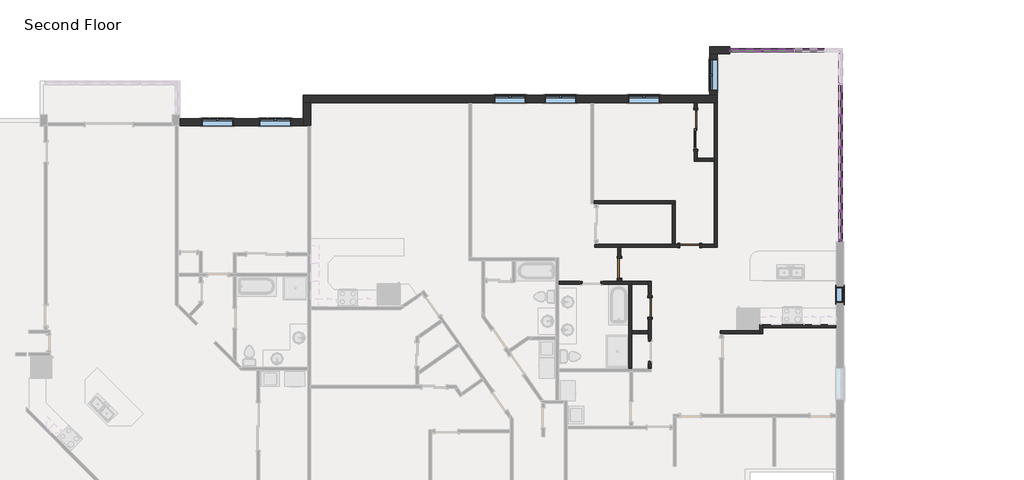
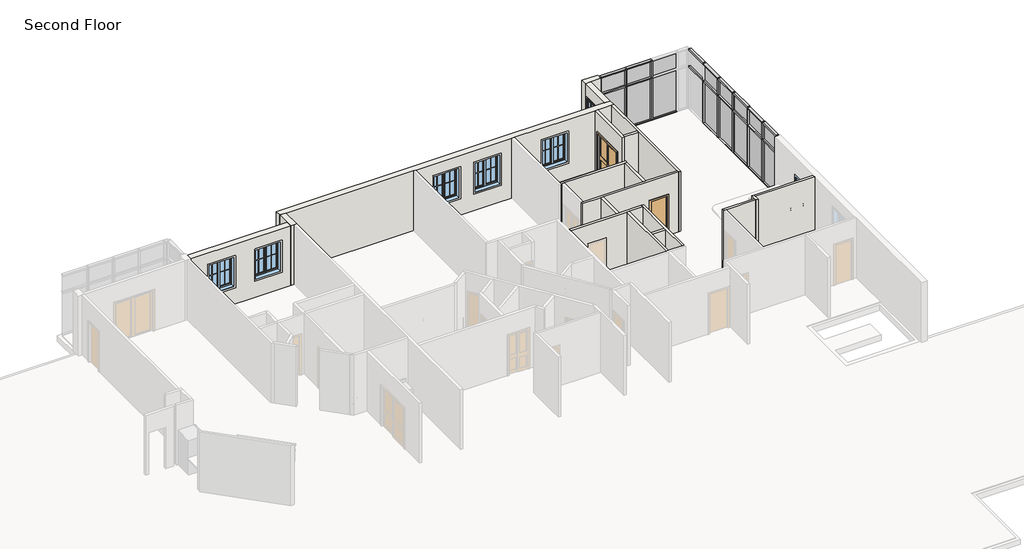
# One storey, part 12 of 17: 41 members, 19 walls, 16 plates, 7 windows, 4 doors.
"""IFC4 building model written with IfcOpenShell, lengths in millimetres."""

from ifc_helpers import new_model, si_unit, frame, origin, place, context, project, spatial, polyline, outline, extrude, faceted_brep, transform, mapped, element, save
from components import door_f2b275c1, door_2e7ec8be, rectangular_mullion_rectangular_mullion_1_fa3625a1, rectangular_mullion_rectangular_mullion_1_a50b3cda, rectangular_mullion_rectangular_mullion_1_5cd4c5ac, rectangular_mullion_rectangular_mullion_1_7cbf0b94, rectangular_mullion_rectangular_mullion_1_6186cc23, rectangular_mullion_rectangular_mullion_1_049a2e78, rectangular_mullion_rectangular_mullion_1_fcad50a8, rectangular_mullion_rectangular_mullion_1_aa096312, system_panel_glazed_53e6f9fb, system_panel_glazed_cb820e14, system_panel_glazed_f20beefc, system_panel_glazed_097fd36c, window_b85827b5, window_33528cc2

model = new_model("IFC4")

# Units and contexts
model_context = context("Model", 3, world=origin())
ifc_project = project(units=[si_unit("LENGTHUNIT", "METRE", prefix="MILLI")], contexts=[model_context])

# Site, building, storey
site = spatial("IfcSite", under=ifc_project)
building = spatial("IfcBuilding", under=site)
storey = spatial("IfcBuildingStorey", under=building, Name="Second Floor", Elevation=3048.0)

# Doors
placement = place(None, origin())
door_shape = door_f2b275c1(model_context)
element("IfcDoor", 1, ObjectType="Single-Flush : 30\" x 80\"", at=placement, inside=storey, context=model_context, shape_type="MappedRepresentation", body=[
    mapped(door_shape, transform((49850.4788879, 9096.855328, 3048.0), x_axis=(0.0, 1.0, 0.0), y_axis=(-1.0, 0.0, 0.0), z_axis=(0.0, 0.0, 1.0))),
])
element("IfcDoor", 2, ObjectType="Single-Flush : 30\" x 80\"", at=placement, inside=storey, context=model_context, shape_type="MappedRepresentation", body=[
    mapped(door_shape, transform((51382.3746633, 11479.9245559, 3048.0), x_axis=(-1.0, 0.0, 0.0), y_axis=(0.0, -1.0, 0.0), z_axis=(0.0, 0.0, 1.0))),
])
element("IfcDoor", 3, ObjectType="Single-Flush : 30\" x 80\"", at=placement, inside=storey, context=model_context, shape_type="MappedRepresentation", body=[
    mapped(door_shape, transform((48681.6260153, 10610.1456327, 3048.0), x_axis=(0.0, -1.0, 0.0), y_axis=(1.0, 0.0, 0.0), z_axis=(0.0, 0.0, 1.0))),
])
door_2_shape = door_2e7ec8be(model_context)
element("IfcDoor", 4, ObjectType="Sliding-Closet : 60\" x 80\"", at=placement, inside=storey, context=model_context, shape_type="MappedRepresentation", body=[
    mapped(door_2_shape, transform((51741.9440158, 15942.0032713, 3048.0), x_axis=(0.0, 1.0, 0.0), y_axis=(-1.0, 0.0, 0.0), z_axis=(0.0, 0.0, 1.0))),
])

# Members
rectangular_mullion_rectangular_mullion_1_shape = rectangular_mullion_rectangular_mullion_1_fa3625a1(model_context)
element("IfcMember", 5, ObjectType="Rectangular Mullion : Rectangular Mullion 1", at=placement, inside=storey, context=model_context, shape_type="MappedRepresentation", body=[
    mapped(rectangular_mullion_rectangular_mullion_1_shape, transform((54133.5034233, 18983.9169819, 6096.0), x_axis=(0.0, 0.0, 1.0), y_axis=(0.0, -1.0, 0.0), z_axis=(1.0, 0.0, 0.0))),
])
element("IfcMember", 6, ObjectType="Rectangular Mullion : Rectangular Mullion 1", at=placement, inside=storey, context=model_context, shape_type="MappedRepresentation", body=[
    mapped(rectangular_mullion_rectangular_mullion_1_shape, transform((55352.7034233, 18983.9169819, 6096.0), x_axis=(0.0, 0.0, 1.0), y_axis=(0.0, -1.0, 0.0), z_axis=(1.0, 0.0, 0.0))),
])
element("IfcMember", 7, ObjectType="Rectangular Mullion : Rectangular Mullion 1", at=placement, inside=storey, context=model_context, shape_type="MappedRepresentation", body=[
    mapped(rectangular_mullion_rectangular_mullion_1_shape, transform((57175.1534229, 17720.2669816, 6096.0), x_axis=(0.0, 0.0, 1.0), y_axis=(-1.0, 0.0, 0.0), z_axis=(0.0, -1.0, 0.0))),
])
element("IfcMember", 8, ObjectType="Rectangular Mullion : Rectangular Mullion 1", at=placement, inside=storey, context=model_context, shape_type="MappedRepresentation", body=[
    mapped(rectangular_mullion_rectangular_mullion_1_shape, transform((57175.1534229, 16501.0669816, 6096.0), x_axis=(0.0, 0.0, 1.0), y_axis=(-1.0, 0.0, 0.0), z_axis=(0.0, -1.0, 0.0))),
])
element("IfcMember", 9, ObjectType="Rectangular Mullion : Rectangular Mullion 1", at=placement, inside=storey, context=model_context, shape_type="MappedRepresentation", body=[
    mapped(rectangular_mullion_rectangular_mullion_1_shape, transform((57175.1534229, 15281.8669816, 6096.0), x_axis=(0.0, 0.0, 1.0), y_axis=(-1.0, 0.0, 0.0), z_axis=(0.0, -1.0, 0.0))),
])
element("IfcMember", 10, ObjectType="Rectangular Mullion : Rectangular Mullion 1", at=placement, inside=storey, context=model_context, shape_type="MappedRepresentation", body=[
    mapped(rectangular_mullion_rectangular_mullion_1_shape, transform((57175.1534229, 14062.6669816, 6096.0), x_axis=(0.0, 0.0, 1.0), y_axis=(-1.0, 0.0, 0.0), z_axis=(0.0, -1.0, 0.0))),
])
element("IfcMember", 11, ObjectType="Rectangular Mullion : Rectangular Mullion 1", at=placement, inside=storey, context=model_context, shape_type="MappedRepresentation", body=[
    mapped(rectangular_mullion_rectangular_mullion_1_shape, transform((57175.1534229, 12843.4669816, 6096.0), x_axis=(0.0, 0.0, 1.0), y_axis=(-1.0, 0.0, 0.0), z_axis=(0.0, -1.0, 0.0))),
])
element("IfcMember", 12, ObjectType="Rectangular Mullion : Rectangular Mullion 1", at=placement, inside=storey, context=model_context, shape_type="MappedRepresentation", body=[
    mapped(rectangular_mullion_rectangular_mullion_1_shape, transform((52977.8034229, 18983.9169819, 3048.0), x_axis=(0.0, 0.0, -1.0), y_axis=(0.0, -1.0, 0.0), z_axis=(-1.0, 0.0, 0.0))),
])
element("IfcMember", 13, ObjectType="Rectangular Mullion : Rectangular Mullion 1", at=placement, inside=storey, context=model_context, shape_type="MappedRepresentation", body=[
    mapped(rectangular_mullion_rectangular_mullion_1_shape, transform((54197.0034233, 18983.9169819, 3048.0), x_axis=(0.0, 0.0, -1.0), y_axis=(0.0, -1.0, 0.0), z_axis=(-1.0, 0.0, 0.0))),
])
element("IfcMember", 14, ObjectType="Rectangular Mullion : Rectangular Mullion 1", at=placement, inside=storey, context=model_context, shape_type="MappedRepresentation", body=[
    mapped(rectangular_mullion_rectangular_mullion_1_shape, transform((55416.2034233, 18983.9169819, 3048.0), x_axis=(0.0, 0.0, -1.0), y_axis=(0.0, -1.0, 0.0), z_axis=(-1.0, 0.0, 0.0))),
])
element("IfcMember", 15, ObjectType="Rectangular Mullion : Rectangular Mullion 1", at=placement, inside=storey, context=model_context, shape_type="MappedRepresentation", body=[
    mapped(rectangular_mullion_rectangular_mullion_1_shape, transform((57175.1534229, 17656.7669816, 3048.0), x_axis=(0.0, 0.0, -1.0), y_axis=(-1.0, 0.0, 0.0), z_axis=(0.0, 1.0, 0.0))),
])
element("IfcMember", 16, ObjectType="Rectangular Mullion : Rectangular Mullion 1", at=placement, inside=storey, context=model_context, shape_type="MappedRepresentation", body=[
    mapped(rectangular_mullion_rectangular_mullion_1_shape, transform((57175.1534229, 16437.5669816, 3048.0), x_axis=(0.0, 0.0, -1.0), y_axis=(-1.0, 0.0, 0.0), z_axis=(0.0, 1.0, 0.0))),
])
element("IfcMember", 17, ObjectType="Rectangular Mullion : Rectangular Mullion 1", at=placement, inside=storey, context=model_context, shape_type="MappedRepresentation", body=[
    mapped(rectangular_mullion_rectangular_mullion_1_shape, transform((57175.1534229, 15218.3669816, 3048.0), x_axis=(0.0, 0.0, -1.0), y_axis=(-1.0, 0.0, 0.0), z_axis=(0.0, 1.0, 0.0))),
])
element("IfcMember", 18, ObjectType="Rectangular Mullion : Rectangular Mullion 1", at=placement, inside=storey, context=model_context, shape_type="MappedRepresentation", body=[
    mapped(rectangular_mullion_rectangular_mullion_1_shape, transform((57175.1534229, 13999.1669816, 3048.0), x_axis=(0.0, 0.0, -1.0), y_axis=(-1.0, 0.0, 0.0), z_axis=(0.0, 1.0, 0.0))),
])
rectangular_mullion_rectangular_mullion_1_2_shape = rectangular_mullion_rectangular_mullion_1_a50b3cda(model_context)
element("IfcMember", 19, ObjectType="Rectangular Mullion : Rectangular Mullion 1", at=placement, inside=storey, context=model_context, shape_type="MappedRepresentation", body=[
    mapped(rectangular_mullion_rectangular_mullion_1_2_shape, transform((57175.1534229, 11632.2044819, 3048.0), x_axis=(0.0, -1.0, 0.0), y_axis=(-1.0, 0.0, 0.0), z_axis=(0.0, 0.0, -1.0))),
])
rectangular_mullion_rectangular_mullion_1_3_shape = rectangular_mullion_rectangular_mullion_1_5cd4c5ac(model_context)
element("IfcMember", 20, ObjectType="Rectangular Mullion : Rectangular Mullion 1", at=placement, inside=storey, context=model_context, shape_type="MappedRepresentation", body=[
    mapped(rectangular_mullion_rectangular_mullion_1_3_shape, transform((57175.1534229, 11632.2044819, 5213.35), x_axis=(0.0, -1.0, 0.0), y_axis=(-1.0, 0.0, 0.0), z_axis=(0.0, 0.0, -1.0))),
])
element("IfcMember", 21, ObjectType="Rectangular Mullion : Rectangular Mullion 1", at=placement, inside=storey, context=model_context, shape_type="MappedRepresentation", body=[
    mapped(rectangular_mullion_rectangular_mullion_1_3_shape, transform((52914.3034229, 18983.9169819, 6096.0), x_axis=(-1.0, 0.0, 0.0), y_axis=(0.0, -1.0, 0.0), z_axis=(0.0, 0.0, 1.0))),
])
element("IfcMember", 22, ObjectType="Rectangular Mullion : Rectangular Mullion 1", at=placement, inside=storey, context=model_context, shape_type="MappedRepresentation", body=[
    mapped(rectangular_mullion_rectangular_mullion_1_2_shape, transform((52914.3034229, 18983.9169819, 5213.35), x_axis=(-1.0, 0.0, 0.0), y_axis=(0.0, -1.0, 0.0), z_axis=(0.0, 0.0, 1.0))),
])
rectangular_mullion_rectangular_mullion_1_4_shape = rectangular_mullion_rectangular_mullion_1_7cbf0b94(model_context)
element("IfcMember", 23, ObjectType="Rectangular Mullion : Rectangular Mullion 1", at=placement, inside=storey, context=model_context, shape_type="MappedRepresentation", body=[
    mapped(rectangular_mullion_rectangular_mullion_1_4_shape, transform((54133.5034233, 18983.9169819, 5213.35), x_axis=(0.0, 0.0, 1.0), y_axis=(0.0, -1.0, 0.0), z_axis=(1.0, 0.0, 0.0))),
])
element("IfcMember", 24, ObjectType="Rectangular Mullion : Rectangular Mullion 1", at=placement, inside=storey, context=model_context, shape_type="MappedRepresentation", body=[
    mapped(rectangular_mullion_rectangular_mullion_1_4_shape, transform((55352.7034233, 18983.9169819, 5213.35), x_axis=(0.0, 0.0, 1.0), y_axis=(0.0, -1.0, 0.0), z_axis=(1.0, 0.0, 0.0))),
])
element("IfcMember", 25, ObjectType="Rectangular Mullion : Rectangular Mullion 1", at=placement, inside=storey, context=model_context, shape_type="MappedRepresentation", body=[
    mapped(rectangular_mullion_rectangular_mullion_1_4_shape, transform((57175.1534229, 17720.2669816, 5213.35), x_axis=(0.0, 0.0, 1.0), y_axis=(-1.0, 0.0, 0.0), z_axis=(0.0, -1.0, 0.0))),
])
element("IfcMember", 26, ObjectType="Rectangular Mullion : Rectangular Mullion 1", at=placement, inside=storey, context=model_context, shape_type="MappedRepresentation", body=[
    mapped(rectangular_mullion_rectangular_mullion_1_4_shape, transform((57175.1534229, 16501.0669816, 5213.35), x_axis=(0.0, 0.0, 1.0), y_axis=(-1.0, 0.0, 0.0), z_axis=(0.0, -1.0, 0.0))),
])
element("IfcMember", 27, ObjectType="Rectangular Mullion : Rectangular Mullion 1", at=placement, inside=storey, context=model_context, shape_type="MappedRepresentation", body=[
    mapped(rectangular_mullion_rectangular_mullion_1_4_shape, transform((57175.1534229, 15281.8669816, 5213.35), x_axis=(0.0, 0.0, 1.0), y_axis=(-1.0, 0.0, 0.0), z_axis=(0.0, -1.0, 0.0))),
])
element("IfcMember", 28, ObjectType="Rectangular Mullion : Rectangular Mullion 1", at=placement, inside=storey, context=model_context, shape_type="MappedRepresentation", body=[
    mapped(rectangular_mullion_rectangular_mullion_1_4_shape, transform((57175.1534229, 14062.6669816, 5213.35), x_axis=(0.0, 0.0, 1.0), y_axis=(-1.0, 0.0, 0.0), z_axis=(0.0, -1.0, 0.0))),
])
element("IfcMember", 29, ObjectType="Rectangular Mullion : Rectangular Mullion 1", at=placement, inside=storey, context=model_context, shape_type="MappedRepresentation", body=[
    mapped(rectangular_mullion_rectangular_mullion_1_4_shape, transform((57175.1534229, 12843.4669816, 5213.35), x_axis=(0.0, 0.0, 1.0), y_axis=(-1.0, 0.0, 0.0), z_axis=(0.0, -1.0, 0.0))),
])
rectangular_mullion_rectangular_mullion_1_5_shape = rectangular_mullion_rectangular_mullion_1_6186cc23(model_context)
element("IfcMember", 30, ObjectType="Rectangular Mullion : Rectangular Mullion 1", at=placement, inside=storey, context=model_context, shape_type="MappedRepresentation", body=[
    mapped(rectangular_mullion_rectangular_mullion_1_5_shape, transform((54165.2534233, 18983.9169819, 3048.0), x_axis=(1.0, 0.0, 0.0), y_axis=(0.0, -1.0, 0.0), z_axis=(0.0, 0.0, -1.0))),
])
element("IfcMember", 31, ObjectType="Rectangular Mullion : Rectangular Mullion 1", at=placement, inside=storey, context=model_context, shape_type="MappedRepresentation", body=[
    mapped(rectangular_mullion_rectangular_mullion_1_5_shape, transform((55384.4534233, 18983.9169819, 3048.0), x_axis=(1.0, 0.0, 0.0), y_axis=(0.0, -1.0, 0.0), z_axis=(0.0, 0.0, -1.0))),
])
element("IfcMember", 32, ObjectType="Rectangular Mullion : Rectangular Mullion 1", at=placement, inside=storey, context=model_context, shape_type="MappedRepresentation", body=[
    mapped(rectangular_mullion_rectangular_mullion_1_5_shape, transform((57175.1534229, 17688.5169816, 3048.0), x_axis=(0.0, -1.0, 0.0), y_axis=(-1.0, 0.0, 0.0), z_axis=(0.0, 0.0, -1.0))),
])
element("IfcMember", 33, ObjectType="Rectangular Mullion : Rectangular Mullion 1", at=placement, inside=storey, context=model_context, shape_type="MappedRepresentation", body=[
    mapped(rectangular_mullion_rectangular_mullion_1_5_shape, transform((57175.1534229, 16469.3169816, 3048.0), x_axis=(0.0, -1.0, 0.0), y_axis=(-1.0, 0.0, 0.0), z_axis=(0.0, 0.0, -1.0))),
])
element("IfcMember", 34, ObjectType="Rectangular Mullion : Rectangular Mullion 1", at=placement, inside=storey, context=model_context, shape_type="MappedRepresentation", body=[
    mapped(rectangular_mullion_rectangular_mullion_1_5_shape, transform((57175.1534229, 15250.1169816, 3048.0), x_axis=(0.0, -1.0, 0.0), y_axis=(-1.0, 0.0, 0.0), z_axis=(0.0, 0.0, -1.0))),
])
element("IfcMember", 35, ObjectType="Rectangular Mullion : Rectangular Mullion 1", at=placement, inside=storey, context=model_context, shape_type="MappedRepresentation", body=[
    mapped(rectangular_mullion_rectangular_mullion_1_5_shape, transform((57175.1534229, 14030.9169816, 3048.0), x_axis=(0.0, -1.0, 0.0), y_axis=(-1.0, 0.0, 0.0), z_axis=(0.0, 0.0, -1.0))),
])
element("IfcMember", 36, ObjectType="Rectangular Mullion : Rectangular Mullion 1", at=placement, inside=storey, context=model_context, shape_type="MappedRepresentation", body=[
    mapped(rectangular_mullion_rectangular_mullion_1_5_shape, transform((57175.1534229, 12811.7169816, 3048.0), x_axis=(0.0, -1.0, 0.0), y_axis=(-1.0, 0.0, 0.0), z_axis=(0.0, 0.0, -1.0))),
])
rectangular_mullion_rectangular_mullion_1_6_shape = rectangular_mullion_rectangular_mullion_1_049a2e78(model_context)
element("IfcMember", 37, ObjectType="Rectangular Mullion : Rectangular Mullion 1", at=placement, inside=storey, context=model_context, shape_type="MappedRepresentation", body=[
    mapped(rectangular_mullion_rectangular_mullion_1_6_shape, transform((54165.2534233, 18983.9169819, 5213.35), x_axis=(1.0, 0.0, 0.0), y_axis=(0.0, -1.0, 0.0), z_axis=(0.0, 0.0, -1.0))),
])
element("IfcMember", 38, ObjectType="Rectangular Mullion : Rectangular Mullion 1", at=placement, inside=storey, context=model_context, shape_type="MappedRepresentation", body=[
    mapped(rectangular_mullion_rectangular_mullion_1_6_shape, transform((55384.4534233, 18983.9169819, 5213.35), x_axis=(1.0, 0.0, 0.0), y_axis=(0.0, -1.0, 0.0), z_axis=(0.0, 0.0, -1.0))),
])
element("IfcMember", 39, ObjectType="Rectangular Mullion : Rectangular Mullion 1", at=placement, inside=storey, context=model_context, shape_type="MappedRepresentation", body=[
    mapped(rectangular_mullion_rectangular_mullion_1_6_shape, transform((57175.1534229, 16469.3169816, 5213.35), x_axis=(0.0, -1.0, 0.0), y_axis=(-1.0, 0.0, 0.0), z_axis=(0.0, 0.0, -1.0))),
])
element("IfcMember", 40, ObjectType="Rectangular Mullion : Rectangular Mullion 1", at=placement, inside=storey, context=model_context, shape_type="MappedRepresentation", body=[
    mapped(rectangular_mullion_rectangular_mullion_1_6_shape, transform((57175.1534229, 15250.1169816, 5213.35), x_axis=(0.0, -1.0, 0.0), y_axis=(-1.0, 0.0, 0.0), z_axis=(0.0, 0.0, -1.0))),
])
element("IfcMember", 41, ObjectType="Rectangular Mullion : Rectangular Mullion 1", at=placement, inside=storey, context=model_context, shape_type="MappedRepresentation", body=[
    mapped(rectangular_mullion_rectangular_mullion_1_6_shape, transform((57175.1534229, 14030.9169816, 5213.35), x_axis=(0.0, -1.0, 0.0), y_axis=(-1.0, 0.0, 0.0), z_axis=(0.0, 0.0, -1.0))),
])
element("IfcMember", 42, ObjectType="Rectangular Mullion : Rectangular Mullion 1", at=placement, inside=storey, context=model_context, shape_type="MappedRepresentation", body=[
    mapped(rectangular_mullion_rectangular_mullion_1_6_shape, transform((57175.1534229, 12811.7169816, 5213.35), x_axis=(0.0, -1.0, 0.0), y_axis=(-1.0, 0.0, 0.0), z_axis=(0.0, 0.0, -1.0))),
])
rectangular_mullion_rectangular_mullion_1_7_shape = rectangular_mullion_rectangular_mullion_1_fcad50a8(model_context)
element("IfcMember", 43, ObjectType="Rectangular Mullion : Rectangular Mullion 1", at=placement, inside=storey, context=model_context, shape_type="MappedRepresentation", body=[
    mapped(rectangular_mullion_rectangular_mullion_1_7_shape, transform((57175.1534229, 11695.7044819, 6096.0), x_axis=(0.0, 0.0, 1.0), y_axis=(-1.0, 0.0, 0.0), z_axis=(0.0, -1.0, 0.0))),
])
element("IfcMember", 44, ObjectType="Rectangular Mullion : Rectangular Mullion 1", at=placement, inside=storey, context=model_context, shape_type="MappedRepresentation", body=[
    mapped(rectangular_mullion_rectangular_mullion_1_7_shape, transform((57175.1534229, 12779.9669816, 3048.0), x_axis=(0.0, 0.0, -1.0), y_axis=(-1.0, 0.0, 0.0), z_axis=(0.0, 1.0, 0.0))),
])
rectangular_mullion_rectangular_mullion_1_8_shape = rectangular_mullion_rectangular_mullion_1_aa096312(model_context)
element("IfcMember", 45, ObjectType="Rectangular Mullion : Rectangular Mullion 1", at=placement, inside=storey, context=model_context, shape_type="MappedRepresentation", body=[
    mapped(rectangular_mullion_rectangular_mullion_1_8_shape, transform((57175.1534229, 11695.7044819, 5213.35), x_axis=(0.0, 0.0, 1.0), y_axis=(-1.0, 0.0, 0.0), z_axis=(0.0, -1.0, 0.0))),
])

# Plates
system_panel_glazed_shape = system_panel_glazed_53e6f9fb(model_context)
element("IfcPlate", 46, ObjectType="System Panel : Glazed", at=placement, inside=storey, context=model_context, shape_type="MappedRepresentation", body=[
    mapped(system_panel_glazed_shape, transform((53555.6534231, 18983.9169819, 3111.5), x_axis=(1.0, 0.0, 0.0), y_axis=(0.0, 1.0, 0.0), z_axis=(0.0, 0.0, 1.0))),
])
element("IfcPlate", 47, ObjectType="System Panel : Glazed", at=placement, inside=storey, context=model_context, shape_type="MappedRepresentation", body=[
    mapped(system_panel_glazed_shape, transform((54774.8534233, 18983.9169819, 3111.5), x_axis=(1.0, 0.0, 0.0), y_axis=(0.0, 1.0, 0.0), z_axis=(0.0, 0.0, 1.0))),
])
element("IfcPlate", 48, ObjectType="System Panel : Glazed", at=placement, inside=storey, context=model_context, shape_type="MappedRepresentation", body=[
    mapped(system_panel_glazed_shape, transform((55994.0534233, 18983.9169819, 3111.5), x_axis=(1.0, 0.0, 0.0), y_axis=(0.0, 1.0, 0.0), z_axis=(0.0, 0.0, 1.0))),
])
element("IfcPlate", 49, ObjectType="System Panel : Glazed", at=placement, inside=storey, context=model_context, shape_type="MappedRepresentation", body=[
    mapped(system_panel_glazed_shape, transform((57175.1534229, 17078.9169816, 3111.5), x_axis=(0.0, -1.0, 0.0), y_axis=(1.0, 0.0, 0.0), z_axis=(0.0, 0.0, 1.0))),
])
element("IfcPlate", 50, ObjectType="System Panel : Glazed", at=placement, inside=storey, context=model_context, shape_type="MappedRepresentation", body=[
    mapped(system_panel_glazed_shape, transform((57175.1534229, 15859.7169816, 3111.5), x_axis=(0.0, -1.0, 0.0), y_axis=(1.0, 0.0, 0.0), z_axis=(0.0, 0.0, 1.0))),
])
element("IfcPlate", 51, ObjectType="System Panel : Glazed", at=placement, inside=storey, context=model_context, shape_type="MappedRepresentation", body=[
    mapped(system_panel_glazed_shape, transform((57175.1534229, 14640.5169816, 3111.5), x_axis=(0.0, -1.0, 0.0), y_axis=(1.0, 0.0, 0.0), z_axis=(0.0, 0.0, 1.0))),
])
element("IfcPlate", 52, ObjectType="System Panel : Glazed", at=placement, inside=storey, context=model_context, shape_type="MappedRepresentation", body=[
    mapped(system_panel_glazed_shape, transform((57175.1534229, 13421.3169816, 3111.5), x_axis=(0.0, -1.0, 0.0), y_axis=(1.0, 0.0, 0.0), z_axis=(0.0, 0.0, 1.0))),
])
system_panel_glazed_2_shape = system_panel_glazed_cb820e14(model_context)
element("IfcPlate", 53, ObjectType="System Panel : Glazed", at=placement, inside=storey, context=model_context, shape_type="MappedRepresentation", body=[
    mapped(system_panel_glazed_2_shape, transform((53555.6534231, 18983.9169819, 5245.1), x_axis=(1.0, 0.0, 0.0), y_axis=(0.0, 1.0, 0.0), z_axis=(0.0, 0.0, 1.0))),
])
element("IfcPlate", 54, ObjectType="System Panel : Glazed", at=placement, inside=storey, context=model_context, shape_type="MappedRepresentation", body=[
    mapped(system_panel_glazed_2_shape, transform((54774.8534233, 18983.9169819, 5245.1), x_axis=(1.0, 0.0, 0.0), y_axis=(0.0, 1.0, 0.0), z_axis=(0.0, 0.0, 1.0))),
])
element("IfcPlate", 55, ObjectType="System Panel : Glazed", at=placement, inside=storey, context=model_context, shape_type="MappedRepresentation", body=[
    mapped(system_panel_glazed_2_shape, transform((55994.0534233, 18983.9169819, 5245.1), x_axis=(1.0, 0.0, 0.0), y_axis=(0.0, 1.0, 0.0), z_axis=(0.0, 0.0, 1.0))),
])
element("IfcPlate", 56, ObjectType="System Panel : Glazed", at=placement, inside=storey, context=model_context, shape_type="MappedRepresentation", body=[
    mapped(system_panel_glazed_2_shape, transform((57175.1534229, 17078.9169816, 5245.1), x_axis=(0.0, -1.0, 0.0), y_axis=(1.0, 0.0, 0.0), z_axis=(0.0, 0.0, 1.0))),
])
element("IfcPlate", 57, ObjectType="System Panel : Glazed", at=placement, inside=storey, context=model_context, shape_type="MappedRepresentation", body=[
    mapped(system_panel_glazed_2_shape, transform((57175.1534229, 15859.7169816, 5245.1), x_axis=(0.0, -1.0, 0.0), y_axis=(1.0, 0.0, 0.0), z_axis=(0.0, 0.0, 1.0))),
])
element("IfcPlate", 58, ObjectType="System Panel : Glazed", at=placement, inside=storey, context=model_context, shape_type="MappedRepresentation", body=[
    mapped(system_panel_glazed_2_shape, transform((57175.1534229, 14640.5169816, 5245.1), x_axis=(0.0, -1.0, 0.0), y_axis=(1.0, 0.0, 0.0), z_axis=(0.0, 0.0, 1.0))),
])
element("IfcPlate", 59, ObjectType="System Panel : Glazed", at=placement, inside=storey, context=model_context, shape_type="MappedRepresentation", body=[
    mapped(system_panel_glazed_2_shape, transform((57175.1534229, 13421.3169816, 5245.1), x_axis=(0.0, -1.0, 0.0), y_axis=(1.0, 0.0, 0.0), z_axis=(0.0, 0.0, 1.0))),
])
system_panel_glazed_3_shape = system_panel_glazed_f20beefc(model_context)
element("IfcPlate", 60, ObjectType="System Panel : Glazed", at=placement, inside=storey, context=model_context, shape_type="MappedRepresentation", body=[
    mapped(system_panel_glazed_3_shape, transform((57175.1534229, 12237.8357318, 3111.5), x_axis=(0.0, -1.0, 0.0), y_axis=(1.0, 0.0, 0.0), z_axis=(0.0, 0.0, 1.0))),
])
system_panel_glazed_4_shape = system_panel_glazed_097fd36c(model_context)
element("IfcPlate", 61, ObjectType="System Panel : Glazed", at=placement, inside=storey, context=model_context, shape_type="MappedRepresentation", body=[
    mapped(system_panel_glazed_4_shape, transform((57175.1534229, 12237.8357318, 5245.1), x_axis=(0.0, -1.0, 0.0), y_axis=(1.0, 0.0, 0.0), z_axis=(0.0, 0.0, 1.0))),
])

# Walls
element("IfcWall", 62, ObjectType="Exterior - Brick on Wood Stud", at=placement, inside=storey, context=model_context, shape_type="Brep", body=[
    faceted_brep([(52157.0659229, 18842.6294819, 3048.0), (52439.6409229, 18842.6294819, 3048.0), (52914.3034229, 18842.6294819, 3048.0), (52914.3034229, 18842.6294819, 6096.0), (52439.6409229, 18842.6294819, 6096.0), (52157.0659229, 18842.6294819, 6096.0), (52157.0659229, 19125.2044819, 3048.0), (52157.0659229, 19125.2044819, 6096.0), (52914.3034229, 19125.2044819, 6096.0), (52914.3034229, 19125.2044819, 3048.0)], [[[0, 1, 2, 3, 4, 5]], [[6, 7, 8, 9]], [[2, 1, 0, 6, 9]], [[3, 2, 9, 8]], [[5, 4, 3, 8, 7]], [[0, 5, 7, 6]]]),
])
element("IfcWall", 63, ObjectType="Exterior - Brick on Wood Stud", at=placement, inside=storey, context=model_context, shape_type="Brep", body=[
    faceted_brep([(36533.8428001, 16964.1039258, 3048.0), (36816.4178001, 16964.1039258, 3048.0), (42890.1928001, 16964.1039258, 3048.0), (43004.4928001, 16964.1039258, 3048.0), (47578.7440143, 16964.1039258, 3048.0), (47693.0440143, 16964.1039258, 3048.0), (51557.7940158, 16964.1039258, 3048.0), (51672.0940158, 16964.1039258, 3048.0), (52325.3409229, 16964.1039258, 3048.0), (52439.6409229, 16964.1039258, 3048.0), (52439.6409229, 16964.1039258, 6096.0), (52325.3409229, 16964.1039258, 6096.0), (51672.0940158, 16964.1039258, 6096.0), (51557.7940158, 16964.1039258, 6096.0), (47693.0440143, 16964.1039258, 6096.0), (47578.7440143, 16964.1039258, 6096.0), (43004.4928001, 16964.1039258, 6096.0), (42890.1928001, 16964.1039258, 6096.0), (36816.4178001, 16964.1039258, 6096.0), (36533.8428001, 16964.1039258, 6096.0), (45080.9428001, 16964.1039258, 5486.4), (45080.9428001, 16964.1039258, 3962.4), (43861.7428001, 16964.1039258, 3962.4), (43861.7428001, 16964.1039258, 5486.4), (50235.0190151, 16964.1039258, 5486.4), (50235.0190151, 16964.1039258, 3962.4), (49015.8190151, 16964.1039258, 3962.4), (49015.8190151, 16964.1039258, 5486.4), (47026.2940143, 16964.1039258, 5486.4), (47026.2940143, 16964.1039258, 3962.4), (45807.0940143, 16964.1039258, 3962.4), (45807.0940143, 16964.1039258, 5486.4), (36533.8428001, 17246.6789258, 3048.0), (36533.8428001, 17246.6789258, 6096.0), (52157.0659229, 17246.6789258, 6096.0), (52439.6409229, 17246.6789258, 6096.0), (52439.6409229, 17246.6789258, 3048.0), (52157.0659229, 17246.6789258, 3048.0), (45080.9428001, 17246.6789258, 5486.4), (43861.7428001, 17246.6789258, 5486.4), (43861.7428001, 17246.6789258, 3962.4), (45080.9428001, 17246.6789258, 3962.4), (50235.0190151, 17246.6789258, 5486.4), (49015.8190151, 17246.6789258, 5486.4), (49015.8190151, 17246.6789258, 3962.4), (50235.0190151, 17246.6789258, 3962.4), (47026.2940143, 17246.6789258, 5486.4), (45807.0940143, 17246.6789258, 5486.4), (45807.0940143, 17246.6789258, 3962.4), (47026.2940143, 17246.6789258, 3962.4)], [[[0, 1, 2, 3, 4, 5, 6, 7, 8, 9, 10, 11, 12, 13, 14, 15, 16, 17, 18, 19], [20, 21, 22, 23], [24, 25, 26, 27], [28, 29, 30, 31]], [[32, 33, 34, 35, 36, 37], [38, 39, 40, 41], [42, 43, 44, 45], [46, 47, 48, 49]], [[21, 20, 38, 41]], [[22, 21, 41, 40]], [[23, 22, 40, 39]], [[20, 23, 39, 38]], [[25, 24, 42, 45]], [[26, 25, 45, 44]], [[27, 26, 44, 43]], [[24, 27, 43, 42]], [[29, 28, 46, 49]], [[30, 29, 49, 48]], [[31, 30, 48, 47]], [[28, 31, 47, 46]], [[9, 8, 7, 6, 5, 4, 3, 2, 1, 0, 32, 37, 36]], [[19, 18, 17, 16, 15, 14, 13, 12, 11, 10, 35, 34, 33]], [[0, 19, 33, 32]], [[10, 9, 36, 35]]]),
])
element("IfcWall", 64, ObjectType="Exterior - Brick on Wood Stud", at=placement, inside=storey, context=model_context, shape_type="Brep", body=[
    faceted_brep([(36533.8428001, 16964.1039258, 3048.0), (36533.8428001, 16359.6615339, 3048.0), (36533.8428001, 16077.0865339, 3048.0), (36533.8428001, 16077.0865339, 6096.0), (36533.8428001, 16359.6615339, 6096.0), (36533.8428001, 16964.1039258, 6096.0), (36816.4178001, 16964.1039258, 3048.0), (36816.4178001, 16964.1039258, 6096.0), (36816.4178001, 16077.0865339, 6096.0), (36816.4178001, 16077.0865339, 3048.0), (36702.1178001, 16077.0865339, 3048.0), (36702.1178001, 16077.0865339, 6096.0)], [[[0, 1, 2, 3, 4, 5]], [[6, 7, 8, 9]], [[2, 1, 0, 6, 9, 10]], [[5, 4, 3, 11, 8, 7]], [[3, 2, 10, 9, 8, 11]], [[0, 5, 7, 6]]]),
])
element("IfcWall", 65, ObjectType="Exterior - Brick on Wood Stud", at=placement, inside=storey, context=model_context, shape_type="SweptSolid", body=[
    extrude(outline(polyline([(18842.6294819, 3048.0), (17246.6789258, 3048.0), (17246.6789258, 6096.0), (18842.6294819, 6096.0), (18842.6294819, 3048.0)]), holes=[polyline([(18641.5542038, 5486.4), (17422.3542038, 5486.4), (17422.3542038, 3962.4), (18641.5542038, 3962.4), (18641.5542038, 5486.4)])]), frame((52157.0659229, 0.0, 0.0), z_axis=(1.0, 0.0, 0.0), x_axis=(0.0, 1.0, 0.0)), (0.0, 0.0, 1.0), 282.575),
])
element("IfcWall", 66, ObjectType="Exterior - Brick on Wood Stud", at=placement, inside=storey, context=model_context, shape_type="SweptSolid", body=[
    extrude(outline(polyline([(3048.0, 36533.8428001), (6096.0, 36533.8428001), (6096.0, 31777.7798474), (3048.0, 31777.7798474), (3048.0, 36533.8428001)]), holes=[polyline([(5486.4, 36065.5303001), (3962.4, 36065.5303001), (3962.4, 34846.3303001), (5486.4, 34846.3303001), (5486.4, 36065.5303001)]), polyline([(5486.4, 33846.2923474), (3962.4, 33846.2923474), (3962.4, 32627.0923474), (5486.4, 32627.0923474), (5486.4, 33846.2923474)])]), frame((0.0, 16077.0865339, 0.0), z_axis=(0.0, 1.0, 0.0), x_axis=(0.0, 0.0, 1.0)), (0.0, 0.0, 1.0), 282.575),
])
element("IfcWall", 67, ObjectType="Interior - 4 1/2\" Partition", at=placement, inside=storey, context=model_context, shape_type="Brep", body=[
    faceted_brep([(47693.0440143, 13091.2456698, 3048.0), (47731.1440143, 13091.2456698, 3048.0), (47845.4440143, 13091.2456698, 3048.0), (50715.6246633, 13091.2456698, 3048.0), (50829.9246633, 13091.2456698, 3048.0), (50829.9246633, 13091.2456698, 6096.0), (50715.6246633, 13091.2456698, 6096.0), (47845.4440143, 13091.2456698, 6096.0), (47731.1440143, 13091.2456698, 6096.0), (47693.0440143, 13091.2456698, 6096.0), (47693.0440143, 13205.5456698, 3048.0), (47693.0440143, 13205.5456698, 6096.0), (50829.9246633, 13205.5456698, 6096.0), (50829.9246633, 13205.5456698, 3048.0)], [[[0, 1, 2, 3, 4, 5, 6, 7, 8, 9]], [[10, 11, 12, 13]], [[4, 3, 2, 1, 0, 10, 13]], [[9, 8, 7, 6, 5, 12, 11]], [[5, 4, 13, 12]], [[0, 9, 11, 10]]]),
])
element("IfcWall", 68, ObjectType="Interior - 4 1/2\" Partition", at=placement, inside=storey, context=model_context, shape_type="SweptSolid", body=[
    extrude(outline(polyline([(50715.6246633, 11537.0745559), (50715.6246633, 13091.2456698), (50829.9246633, 13091.2456698), (50829.9246633, 11537.0745559), (50715.6246633, 11537.0745559)])), frame((0.0, 0.0, 3048.0), z_axis=(0.0, 0.0, 1.0), x_axis=(1.0, 0.0, 0.0)), (0.0, 0.0, 1.0), 3048.0),
])
element("IfcWall", 69, ObjectType="Interior - 4 1/2\" Partition", at=placement, inside=storey, context=model_context, shape_type="Brep", body=[
    faceted_brep([(52325.3409229, 16964.1039258, 3048.0), (52325.3409229, 14835.7651168, 3048.0), (52325.3409229, 14721.4651168, 3048.0), (52325.3409229, 11537.0745559, 3048.0), (52325.3409229, 11422.7745559, 3048.0), (52325.3409229, 11422.7745559, 6096.0), (52325.3409229, 11537.0745559, 6096.0), (52325.3409229, 14721.4651168, 6096.0), (52325.3409229, 14835.7651168, 6096.0), (52325.3409229, 16964.1039258, 6096.0), (52439.6409229, 16964.1039258, 3048.0), (52439.6409229, 16964.1039258, 6096.0), (52439.6409229, 11422.7745559, 6096.0), (52439.6409229, 11422.7745559, 3048.0)], [[[0, 1, 2, 3, 4, 5, 6, 7, 8, 9]], [[10, 11, 12, 13]], [[4, 3, 2, 1, 0, 10, 13]], [[9, 8, 7, 6, 5, 12, 11]], [[5, 4, 13, 12]], [[0, 9, 11, 10]]]),
])
element("IfcWall", 70, ObjectType="Interior - 4 1/2\" Partition", at=placement, inside=storey, context=model_context, shape_type="Brep", body=[
    faceted_brep([(51001.3746633, 11537.0745559, 5080.0), (51001.3746633, 11537.0745559, 3048.0), (50829.9246633, 11537.0745559, 3048.0), (50715.6246633, 11537.0745559, 3048.0), (47845.4440143, 11537.0745559, 3048.0), (47731.1440143, 11537.0745559, 3048.0), (47731.1440143, 11537.0745559, 6096.0), (47845.4440143, 11537.0745559, 6096.0), (50715.6246633, 11537.0745559, 6096.0), (50829.9246633, 11537.0745559, 6096.0), (52325.3409229, 11537.0745559, 6096.0), (52325.3409229, 11537.0745559, 3048.0), (51763.3746633, 11537.0745559, 3048.0), (51763.3746633, 11537.0745559, 5080.0), (47731.1440143, 11422.7745559, 3048.0), (48624.4760153, 11422.7745559, 3048.0), (48738.7760153, 11422.7745559, 3048.0), (51001.3746633, 11422.7745559, 3048.0), (51001.3746633, 11422.7745559, 5080.0), (51763.3746633, 11422.7745559, 5080.0), (51763.3746633, 11422.7745559, 3048.0), (52325.3409229, 11422.7745559, 3048.0), (52325.3409229, 11422.7745559, 6096.0), (48738.7760153, 11422.7745559, 6096.0), (48624.4760153, 11422.7745559, 6096.0), (47731.1440143, 11422.7745559, 6096.0)], [[[0, 1, 2, 3, 4, 5, 6, 7, 8, 9, 10, 11, 12, 13]], [[14, 15, 16, 17, 18, 19, 20, 21, 22, 23, 24, 25]], [[12, 11, 21, 20]], [[5, 4, 3, 2, 1, 17, 16, 15, 14]], [[10, 9, 8, 7, 6, 25, 24, 23, 22]], [[18, 17, 1, 0]], [[19, 18, 0, 13]], [[20, 19, 13, 12]], [[6, 5, 14, 25]], [[11, 10, 22, 21]]]),
])
element("IfcWall", 71, ObjectType="Interior - 4 1/2\" Partition", at=placement, inside=storey, context=model_context, shape_type="Brep", body=[
    faceted_brep([(49907.6288879, 9477.855328, 5080.0), (49907.6288879, 9477.855328, 3048.0), (49907.6288879, 10102.3167096, 3048.0), (49907.6288879, 10102.3167096, 6096.0), (49907.6288879, 6749.5167096, 6096.0), (49907.6288879, 6749.5167096, 3048.0), (49907.6288879, 7039.455328, 3048.0), (49907.6288879, 7039.455328, 5080.0), (49907.6288879, 7801.455328, 5080.0), (49907.6288879, 7801.455328, 3048.0), (49907.6288879, 8715.855328, 3048.0), (49907.6288879, 8715.855328, 5080.0), (49793.3288879, 10102.3167096, 3048.0), (49793.3288879, 9988.0167096, 3048.0), (49793.3288879, 9477.855328, 3048.0), (49793.3288879, 9477.855328, 5080.0), (49793.3288879, 8715.855328, 5080.0), (49793.3288879, 8715.855328, 3048.0), (49793.3288879, 8205.6939464, 3048.0), (49793.3288879, 8091.3939464, 3048.0), (49793.3288879, 7801.455328, 3048.0), (49793.3288879, 7801.455328, 5080.0), (49793.3288879, 7039.455328, 5080.0), (49793.3288879, 7039.455328, 3048.0), (49793.3288879, 6749.5167096, 3048.0), (49793.3288879, 6749.5167096, 6096.0), (49793.3288879, 8091.3939464, 6096.0), (49793.3288879, 8205.6939464, 6096.0), (49793.3288879, 9988.0167096, 6096.0), (49793.3288879, 10102.3167096, 6096.0)], [[[0, 1, 2, 3, 4, 5, 6, 7, 8, 9, 10, 11]], [[12, 13, 14, 15, 16, 17, 18, 19, 20, 21, 22, 23, 24, 25, 26, 27, 28, 29]], [[24, 23, 6, 5]], [[10, 9, 20, 19, 18, 17]], [[2, 1, 14, 13, 12]], [[4, 3, 29, 28, 27, 26, 25]], [[7, 6, 23, 22]], [[8, 7, 22, 21]], [[9, 8, 21, 20]], [[15, 14, 1, 0]], [[16, 15, 0, 11]], [[17, 16, 11, 10]], [[3, 2, 12, 29]], [[5, 4, 25, 24]]]),
])
element("IfcWall", 72, ObjectType="Interior - 4 1/2\" Partition", at=placement, inside=storey, context=model_context, shape_type="Brep", body=[
    faceted_brep([(49793.3288879, 10102.3167096, 3048.0), (48738.7760153, 10102.3167096, 3048.0), (48624.4760153, 10102.3167096, 3048.0), (47970.4260153, 10102.3167096, 3048.0), (47970.4260153, 10102.3167096, 5080.0), (47259.2260153, 10102.3167096, 5080.0), (47259.2260153, 10102.3167096, 3048.0), (46352.4352525, 10102.3167096, 3048.0), (46352.4352525, 10102.3167096, 6096.0), (48624.4760153, 10102.3167096, 6096.0), (48738.7760153, 10102.3167096, 6096.0), (49793.3288879, 10102.3167096, 6096.0), (47970.4260153, 9988.0167096, 5080.0), (47970.4260153, 9988.0167096, 3048.0), (49032.3272963, 9988.0167096, 3048.0), (49146.6272963, 9988.0167096, 3048.0), (49793.3288879, 9988.0167096, 3048.0), (49793.3288879, 9988.0167096, 6096.0), (49146.6272963, 9988.0167096, 6096.0), (49032.3272963, 9988.0167096, 6096.0), (46352.4352525, 9988.0167096, 6096.0), (46352.4352525, 9988.0167096, 3048.0), (47259.2260153, 9988.0167096, 3048.0), (47259.2260153, 9988.0167096, 5080.0)], [[[0, 1, 2, 3, 4, 5, 6, 7, 8, 9, 10, 11]], [[12, 13, 14, 15, 16, 17, 18, 19, 20, 21, 22, 23]], [[22, 21, 7, 6]], [[16, 15, 14, 13, 3, 2, 1, 0]], [[11, 10, 9, 8, 20, 19, 18, 17]], [[4, 3, 13, 12]], [[5, 4, 12, 23]], [[6, 5, 23, 22]], [[0, 11, 17, 16]], [[8, 7, 21, 20]]]),
])
element("IfcWall", 73, ObjectType="Interior - 4 1/2\" Partition", at=placement, inside=storey, context=model_context, shape_type="Brep", body=[
    faceted_brep([(49146.6272963, 6749.5167096, 3048.0), (49146.6272963, 8091.3939464, 3048.0), (49146.6272963, 8205.6939464, 3048.0), (49146.6272963, 9988.0167096, 3048.0), (49146.6272963, 9988.0167096, 6096.0), (49146.6272963, 8205.6939464, 6096.0), (49146.6272963, 8091.3939464, 6096.0), (49146.6272963, 6749.5167096, 6096.0), (49032.3272963, 6749.5167096, 3048.0), (49032.3272963, 6749.5167096, 6096.0), (49032.3272963, 9988.0167096, 6096.0), (49032.3272963, 9988.0167096, 3048.0)], [[[0, 1, 2, 3, 4, 5, 6, 7]], [[8, 9, 10, 11]], [[3, 2, 1, 0, 8, 11]], [[7, 6, 5, 4, 10, 9]], [[4, 3, 11, 10]], [[0, 7, 9, 8]]]),
])
element("IfcWall", 74, ObjectType="Interior - 4 1/2\" Partition", at=placement, inside=storey, context=model_context, shape_type="SweptSolid", body=[
    extrude(outline(polyline([(54188.4985135, 8425.9167096), (57019.8087704, 8425.9167096), (57019.8087704, 8311.6167096), (54188.4985135, 8311.6167096), (54188.4985135, 8425.9167096)])), frame((0.0, 0.0, 3048.0), z_axis=(0.0, 0.0, 1.0), x_axis=(1.0, 0.0, 0.0)), (0.0, 0.0, 1.0), 3048.0),
])
element("IfcWall", 75, ObjectType="Interior - 4 1/2\" Partition", at=placement, inside=storey, context=model_context, shape_type="Brep", body=[
    faceted_brep([(54074.1985135, 8425.9167096, 3048.0), (54074.1985135, 8205.6939464, 3048.0), (54074.1985135, 8091.3939464, 3048.0), (54074.1985135, 8091.3939464, 6096.0), (54074.1985135, 8205.6939464, 6096.0), (54074.1985135, 8425.9167096, 6096.0), (54188.4985135, 8425.9167096, 3048.0), (54188.4985135, 8425.9167096, 6096.0), (54188.4985135, 8311.6167096, 6096.0), (54188.4985135, 8091.3939464, 6096.0), (54188.4985135, 8091.3939464, 3048.0), (54188.4985135, 8311.6167096, 3048.0)], [[[0, 1, 2, 3, 4, 5]], [[6, 7, 8, 9, 10, 11]], [[2, 1, 0, 6, 11, 10]], [[5, 4, 3, 9, 8, 7]], [[3, 2, 10, 9]], [[0, 5, 7, 6]]]),
])
element("IfcWall", 76, ObjectType="Interior - 4 1/2\" Partition", at=placement, inside=storey, context=model_context, shape_type="Brep", body=[
    faceted_brep([(54074.1985135, 8205.6939464, 3048.0), (52550.1985135, 8205.6939464, 3048.0), (52550.1985135, 8205.6939464, 6096.0), (54074.1985135, 8205.6939464, 6096.0), (54074.1985135, 8091.3939464, 3048.0), (54074.1985135, 8091.3939464, 6096.0), (52664.4985135, 8091.3939464, 6096.0), (52550.1985135, 8091.3939464, 6096.0), (52550.1985135, 8091.3939464, 3048.0), (52664.4985135, 8091.3939464, 3048.0)], [[[0, 1, 2, 3]], [[4, 5, 6, 7, 8, 9]], [[1, 0, 4, 9, 8]], [[3, 2, 7, 6, 5]], [[2, 1, 8, 7]], [[0, 3, 5, 4]]]),
])
element("IfcWall", 77, ObjectType="Interior - 4 1/2\" Partition", at=placement, inside=storey, context=model_context, shape_type="Brep", body=[
    faceted_brep([(51557.7940158, 16964.1039258, 3048.0), (51557.7940158, 16704.0032713, 3048.0), (51557.7940158, 16704.0032713, 5080.0), (51557.7940158, 15180.0032713, 5080.0), (51557.7940158, 15180.0032713, 3048.0), (51557.7940158, 14721.4651168, 3048.0), (51557.7940158, 14721.4651168, 6096.0), (51557.7940158, 16964.1039258, 6096.0), (51672.0940158, 16704.0032713, 5080.0), (51672.0940158, 16704.0032713, 3048.0), (51672.0940158, 16964.1039258, 3048.0), (51672.0940158, 16964.1039258, 6096.0), (51672.0940158, 14835.7651168, 6096.0), (51672.0940158, 14721.4651168, 6096.0), (51672.0940158, 14721.4651168, 3048.0), (51672.0940158, 14835.7651168, 3048.0), (51672.0940158, 15180.0032713, 3048.0), (51672.0940158, 15180.0032713, 5080.0)], [[[0, 1, 2, 3, 4, 5, 6, 7]], [[8, 9, 10, 11, 12, 13, 14, 15, 16, 17]], [[10, 9, 1, 0]], [[16, 15, 14, 5, 4]], [[7, 6, 13, 12, 11]], [[4, 3, 17, 16]], [[2, 1, 9, 8]], [[3, 2, 8, 17]], [[6, 5, 14, 13]], [[0, 7, 11, 10]]]),
])
element("IfcWall", 78, ObjectType="Interior - 4 1/2\" Partition", at=placement, inside=storey, context=model_context, shape_type="SweptSolid", body=[
    extrude(outline(polyline([(52325.3409229, 14721.4651168), (51672.0940158, 14721.4651168), (51672.0940158, 14835.7651168), (52325.3409229, 14835.7651168), (52325.3409229, 14721.4651168)])), frame((0.0, 0.0, 3048.0), z_axis=(0.0, 0.0, 1.0), x_axis=(1.0, 0.0, 0.0)), (0.0, 0.0, 1.0), 3048.0),
])
element("IfcWall", 79, ObjectType="Interior - 4 1/2\" Partition", at=placement, inside=storey, context=model_context, shape_type="SweptSolid", body=[
    extrude(outline(polyline([(49793.3288879, 8091.3939464), (49146.6272963, 8091.3939464), (49146.6272963, 8205.6939464), (49793.3288879, 8205.6939464), (49793.3288879, 8091.3939464)])), frame((0.0, 0.0, 3048.0), z_axis=(0.0, 0.0, 1.0), x_axis=(1.0, 0.0, 0.0)), (0.0, 0.0, 1.0), 3048.0),
])
element("IfcWall", 80, ObjectType="Interior - 4 1/2\" Partition", at=placement, inside=storey, context=model_context, shape_type="SweptSolid", body=[
    extrude(outline(polyline([(10229.1456327, 5080.0), (10229.1456327, 3048.0), (10102.3167096, 3048.0), (10102.3167096, 6096.0), (11422.7745559, 6096.0), (11422.7745559, 3048.0), (10991.1456327, 3048.0), (10991.1456327, 5080.0), (10229.1456327, 5080.0)])), frame((48624.4760153, 0.0, 0.0), z_axis=(1.0, 0.0, 0.0), x_axis=(0.0, 1.0, 0.0)), (0.0, 0.0, 1.0), 114.3),
])

# Windows
window_shape = window_b85827b5(model_context)
element("IfcWindow", 81, ObjectType="Fixed with Trim : 24\" x 48\"", at=placement, inside=storey, context=model_context, shape_type="MappedRepresentation", body=[
    mapped(window_shape, transform((57161.0962704, 9549.8667096, 3048.0), x_axis=(0.0, -1.0, 0.0), y_axis=(1.0, 0.0, 0.0), z_axis=(0.0, 0.0, 1.0))),
])
window_2_shape = window_33528cc2(model_context)
element("IfcWindow", 82, ObjectType="Window-Casement-Double : 48\" x 60\"", at=placement, inside=storey, context=model_context, shape_type="MappedRepresentation", body=[
    mapped(window_2_shape, transform((44471.3428001, 17105.3914258, 3048.0), x_axis=(1.0, 0.0, 0.0), y_axis=(0.0, 1.0, 0.0), z_axis=(0.0, 0.0, 1.0))),
])
element("IfcWindow", 83, ObjectType="Window-Casement-Double : 48\" x 60\"", at=placement, inside=storey, context=model_context, shape_type="MappedRepresentation", body=[
    mapped(window_2_shape, transform((49625.4190151, 17105.3914258, 3048.0), x_axis=(1.0, 0.0, 0.0), y_axis=(0.0, 1.0, 0.0), z_axis=(0.0, 0.0, 1.0))),
])
element("IfcWindow", 84, ObjectType="Window-Casement-Double : 48\" x 60\"", at=placement, inside=storey, context=model_context, shape_type="MappedRepresentation", body=[
    mapped(window_2_shape, transform((35455.9303001, 16218.3740339, 3048.0), x_axis=(1.0, 0.0, 0.0), y_axis=(0.0, 1.0, 0.0), z_axis=(0.0, 0.0, 1.0))),
])
element("IfcWindow", 85, ObjectType="Window-Casement-Double : 48\" x 60\"", at=placement, inside=storey, context=model_context, shape_type="MappedRepresentation", body=[
    mapped(window_2_shape, transform((33236.6923474, 16218.3740339, 3048.0), x_axis=(1.0, 0.0, 0.0), y_axis=(0.0, 1.0, 0.0), z_axis=(0.0, 0.0, 1.0))),
])
element("IfcWindow", 86, ObjectType="Window-Casement-Double : 48\" x 60\"", at=placement, inside=storey, context=model_context, shape_type="MappedRepresentation", body=[
    mapped(window_2_shape, transform((46416.6940143, 17105.3914258, 3048.0), x_axis=(1.0, 0.0, 0.0), y_axis=(0.0, 1.0, 0.0), z_axis=(0.0, 0.0, 1.0))),
])
element("IfcWindow", 87, ObjectType="Window-Casement-Double : 48\" x 60\"", at=placement, inside=storey, context=model_context, shape_type="MappedRepresentation", body=[
    mapped(window_2_shape, transform((52298.3534229, 18031.9542038, 3048.0), x_axis=(0.0, 1.0, 0.0), y_axis=(-1.0, 0.0, 0.0), z_axis=(0.0, 0.0, 1.0))),
])

save(model, "model.ifc")
